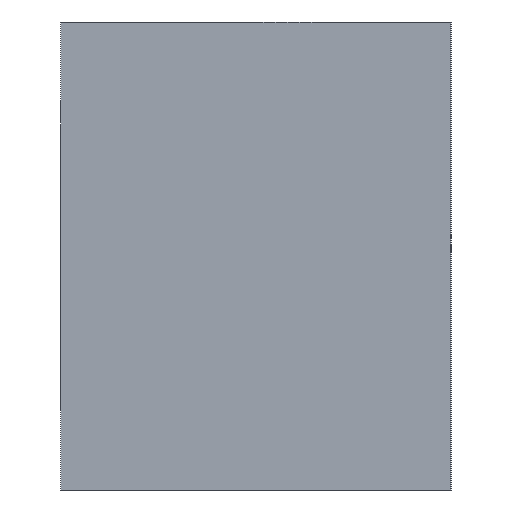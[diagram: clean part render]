
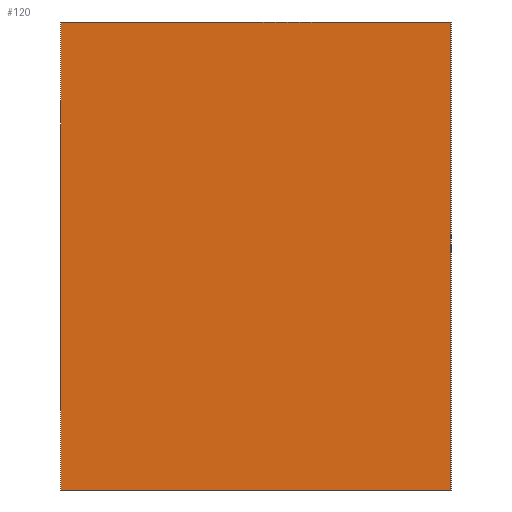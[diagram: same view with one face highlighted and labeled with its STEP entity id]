
A CAD part, left-side view. The second image highlights one B-rep face of the part: STEP entity #120.
In plain terms, the highlighted planar face has unit normal (-1, 0, 0).
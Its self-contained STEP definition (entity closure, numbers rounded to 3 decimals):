
#14 = LINE ( 'NONE', #251, #364 ) ;
#17 = LINE ( 'NONE', #46, #113 ) ;
#19 = LINE ( 'NONE', #226, #373 ) ;
#28 = EDGE_CURVE ( 'NONE', #283, #314, #14, .T. ) ;
#32 = EDGE_CURVE ( 'NONE', #40, #314, #19, .T. ) ;
#40 = VERTEX_POINT ( 'NONE', #140 ) ;
#44 = EDGE_LOOP ( 'NONE', ( #127, #211, #164, #187 ) ) ;
#46 = CARTESIAN_POINT ( 'NONE',  ( -60.794, 9.23, 30. ) ) ;
#75 = VERTEX_POINT ( 'NONE', #312 ) ;
#80 = FACE_OUTER_BOUND ( 'NONE', #44, .T. ) ;
#81 = AXIS2_PLACEMENT_3D ( 'NONE', #323, #200, #320 ) ;
#105 = PLANE ( 'NONE',  #81 ) ;
#113 = VECTOR ( 'NONE', #385, 1000. ) ;
#120 = ADVANCED_FACE ( 'NONE', ( #80 ), #105, .F. ) ;
#127 = ORIENTED_EDGE ( 'NONE', *, *, #32, .T. ) ;
#136 = DIRECTION ( 'NONE',  ( 0., -1., 0. ) ) ;
#140 = CARTESIAN_POINT ( 'NONE',  ( -60.794, 9.23, 0. ) ) ;
#143 = DIRECTION ( 'NONE',  ( 0., 0., -1. ) ) ;
#161 = DIRECTION ( 'NONE',  ( 0., 0., -1. ) ) ;
#164 = ORIENTED_EDGE ( 'NONE', *, *, #176, .F. ) ;
#176 = EDGE_CURVE ( 'NONE', #75, #283, #17, .T. ) ;
#187 = ORIENTED_EDGE ( 'NONE', *, *, #219, .T. ) ;
#200 = DIRECTION ( 'NONE',  ( 1., 0., 0. ) ) ;
#201 = CARTESIAN_POINT ( 'NONE',  ( -60.794, -15.77, 0. ) ) ;
#211 = ORIENTED_EDGE ( 'NONE', *, *, #28, .F. ) ;
#219 = EDGE_CURVE ( 'NONE', #75, #40, #387, .T. ) ;
#224 = CARTESIAN_POINT ( 'NONE',  ( -60.794, 9.23, 30. ) ) ;
#226 = CARTESIAN_POINT ( 'NONE',  ( -60.794, 9.23, 0. ) ) ;
#251 = CARTESIAN_POINT ( 'NONE',  ( -60.794, -15.77, 30. ) ) ;
#260 = VECTOR ( 'NONE', #143, 1000. ) ;
#283 = VERTEX_POINT ( 'NONE', #317 ) ;
#312 = CARTESIAN_POINT ( 'NONE',  ( -60.794, 9.23, 30. ) ) ;
#314 = VERTEX_POINT ( 'NONE', #201 ) ;
#317 = CARTESIAN_POINT ( 'NONE',  ( -60.794, -15.77, 30. ) ) ;
#320 = DIRECTION ( 'NONE',  ( 0., 0., -1. ) ) ;
#323 = CARTESIAN_POINT ( 'NONE',  ( -60.794, 9.23, 30. ) ) ;
#364 = VECTOR ( 'NONE', #161, 1000. ) ;
#373 = VECTOR ( 'NONE', #136, 1000. ) ;
#385 = DIRECTION ( 'NONE',  ( 0., -1., 0. ) ) ;
#387 = LINE ( 'NONE', #224, #260 ) ;
